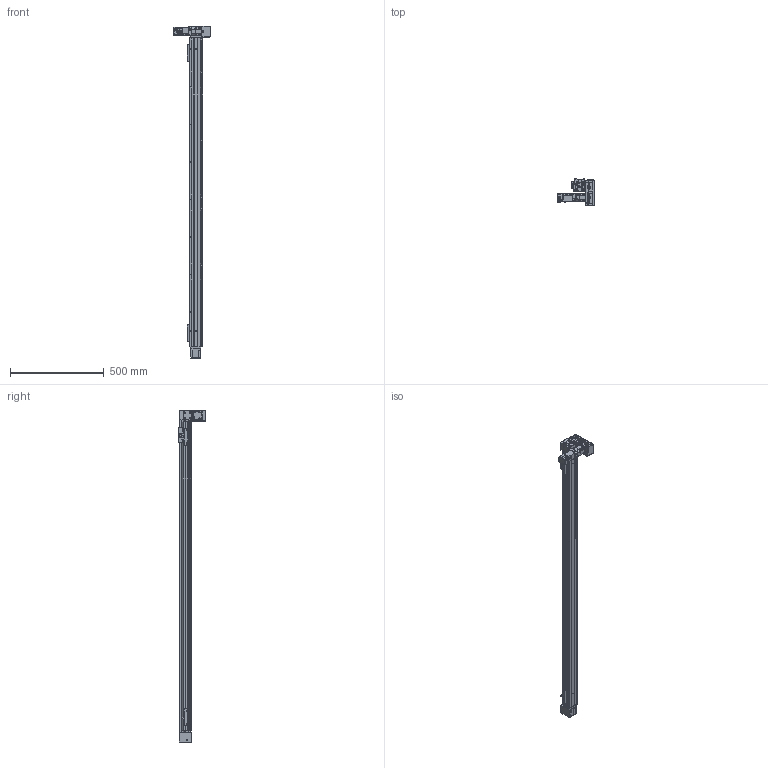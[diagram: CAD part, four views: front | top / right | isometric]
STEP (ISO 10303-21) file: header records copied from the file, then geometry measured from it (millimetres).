
FILE_DESCRIPTION(/* description */ (''),/* implementation_level */ '2;1');
FILE_NAME(/* name */ '\\192.168.0.160\disk1\HAN SHIN Master\B-설계부문\C-표준\B-2024년\BC02-표준도면\+로봇 개선표준도면\홈페이지 표준 도면\홈페이지 최종 작업 폴더\3D\HSB\HSB55\HSB55-DR1G-N-1500-L.stp',/* time_stamp */ '2025-06-19T20:27:35+09:00',/* author */ ('user'),/* organization */ (''),/* preprocessor_version */ 'ST-DEVELOPER v18.1',/* originating_system */ 'Autodesk Inventor 2022',/* authorisation */ '');
FILE_SCHEMA (('AUTOMOTIVE_DESIGN { 1 0 10303 214 3 1 1 }'));
Products named in the file (42): HSB55-DR1G-N-0500-L; HSB55 BASE; HSB55 TABLE; UPCOVER; HSB55 HOUSING (Connecting); HSB55 FRONT HOUSIONG; HSB55 REAR SHAFT-1; HSB55 REAR SHAFT; HSB55 DOWN CLAMP; M4-25(렌치볼트); HSB55 HOUSING-R1; HSB55 TENSION PLATE; ISO 4032 - M4; HSB55 UP CLAMP; M4-12(렌치볼트); SIDE COVER_대칭도; SIDE COVER; HR45 STOPPER; HSB55 ACRYL COVER-R1; HSB55 ACRYL COVER; HSB160 BEARING OVER; HSB55 END COVER; HSB160 SHAFT-1; EC-6202ZZ; EC-6202ZZ Inner ring; EC-6202ZZ Outer ring; EC-6202ZZ St; EC-6202ZZ Ball; EC-6202ZZ B1; HR45 SENSOR DOG; hsr_ftht_A-M6F_grease_nipple_joint; NIPPLE CAP(신규); HR45 SENSOR RAIL; EE_SX674A; PGX44-H-1_3; hg-kr13_; MOTOR PLATE-100W(MITSUBISHI); HSB55 D BELT COVER; HR65-BELT COVER-COVER; HR65-BELT COVER-COVER3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
Assembly tree (64 placements, depth 3):
  HSB55-DR1G-N-0500-L
    HSB55 BASE
    HSB55 TABLE
    UPCOVER
    HSB55 FRONT HOUSIONG  x2
    HSB55 HOUSING (Connecting)
    HSB55 REAR SHAFT-1
    #131226  x2
    HSB55 REAR SHAFT
    HSB55 DOWN CLAMP  x2
    HSB55 UP CLAMP  x2
    M4-25(렌치볼트)
    ISO 4032 - M4  x2
    HSB55 HOUSING-R1
    HSB55 TENSION PLATE  x2
    M4-12(렌치볼트)
    SIDE COVER_대칭도
    SIDE COVER
    HR45 STOPPER  x2
    HSB55 ACRYL COVER  x4
    HSB55 ACRYL COVER-R1
    HSB160 BEARING OVER
    HSB55 END COVER
    HSB160 SHAFT-1
    EC-6202ZZ  x2
      EC-6202ZZ Inner ring
      EC-6202ZZ Outer ring
      EC-6202ZZ B1
      EC-6202ZZ St
      EC-6202ZZ Ball
    HR45 SENSOR DOG
    EE_SX674A  x3
    HR45 SENSOR RAIL  x2
    hsr_ftht_A-M6F_grease_nipple_joint
    NIPPLE CAP(신규)
    PGX44-H-1_3
    hg-kr13_
    MOTOR PLATE-100W(MITSUBISHI)
    HSB55 D BELT COVER
    HR65-BELT COVER-COVER
    HR65-BELT COVER-COVER3
    HSB55 D MOTOR PLATE
    HR65-BELT COVER-COVER2
Bounding box: 201.4 x 142.7 x 1767 mm (x, y, z)
Volume: 2984929.1 mm3; surface area: 1362486.7 mm2
Topology: 90 solids, 90 shells, 5201 faces, 14249 edges, 9330 vertices
Faces by surface type: plane 3609, cylinder 1231, cone 282, torus 35, sphere 22, bspline 22
Full cylindrical faces by diameter (mm): 1 x2, 2 x3, 2.013 x4, 2.459 x102, 2.5 x5, 3 x3, 3.242 x74, 3.3 x9, 3.4 x16, 3.5 x75, 4 x12, 4.134 x18, 4.2 x4, 4.5 x45, 4.917 x2, 5 x8, 5.5 x1, 5.6 x3, 5.9 x2, 6 x46, 6.5 x4, 7 x6, 7.5 x4, 8 x17, 8.2 x1, 9 x2, 9.5 x2, 10 x1, 11.5 x2, 12 x6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
Entity records: 131184 total; most frequent: CARTESIAN_POINT 26552, ORIENTED_EDGE 21458, DIRECTION 21084, EDGE_CURVE 10729, LINE 7618, VECTOR 7618, VERTEX_POINT 7064, AXIS2_PLACEMENT_3D 6733
